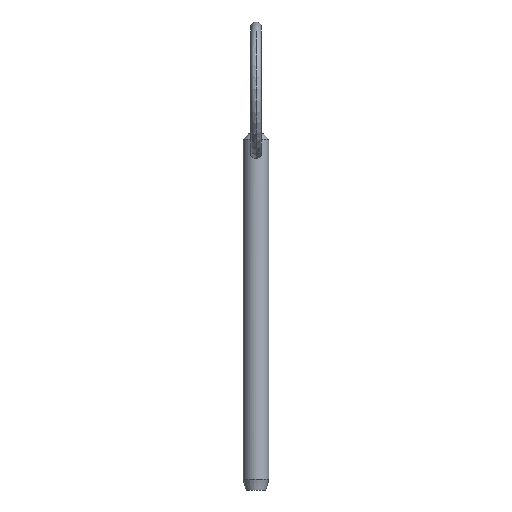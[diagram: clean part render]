
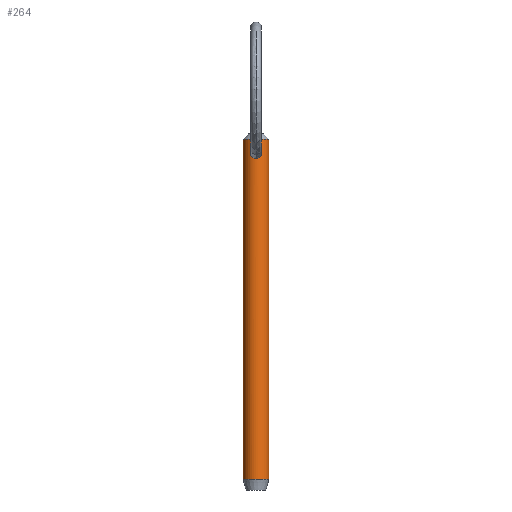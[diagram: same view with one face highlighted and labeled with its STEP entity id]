
A CAD part, front view. The second image highlights one B-rep face of the part: STEP entity #264.
In plain terms, the highlighted cylindrical face has radius 2.38 mm (diameter 4.76 mm), a partial arc.
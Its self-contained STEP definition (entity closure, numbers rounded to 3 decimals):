
#6 = EDGE_CURVE ( 'NONE', #222, #303, #202, .T. ) ;
#14 = AXIS2_PLACEMENT_3D ( 'NONE', #203, #26, #276 ) ;
#23 = CARTESIAN_POINT ( 'NONE',  ( -0.268, -2.368, 56.151 ) ) ;
#26 = DIRECTION ( 'NONE',  ( 0., 0., -1. ) ) ;
#37 = AXIS2_PLACEMENT_3D ( 'NONE', #327, #359, #399 ) ;
#45 = CARTESIAN_POINT ( 'NONE',  ( 0.615, -2.301, 57.944 ) ) ;
#56 = CARTESIAN_POINT ( 'NONE',  ( -0.613, -2.302, 57.946 ) ) ;
#66 = CARTESIAN_POINT ( 'NONE',  ( 2.38, 0., 55.9 ) ) ;
#73 = CARTESIAN_POINT ( 'NONE',  ( 0., -2.38, 58.168 ) ) ;
#76 = LINE ( 'NONE', #196, #261 ) ;
#82 = CARTESIAN_POINT ( 'NONE',  ( 0.133, -2.38, 56.125 ) ) ;
#86 = CARTESIAN_POINT ( 'NONE',  ( -0.991, -2.164, 57.401 ) ) ;
#88 = CARTESIAN_POINT ( 'NONE',  ( -0.514, -2.327, 56.249 ) ) ;
#94 = CARTESIAN_POINT ( 'NONE',  ( -2.38, 0., -3.08 ) ) ;
#101 = CARTESIAN_POINT ( 'NONE',  ( 0.268, -2.368, 58.137 ) ) ;
#103 = CARTESIAN_POINT ( 'NONE',  ( 0.625, -2.299, 56.321 ) ) ;
#110 = ORIENTED_EDGE ( 'NONE', *, *, #459, .T. ) ;
#118 = ORIENTED_EDGE ( 'NONE', *, *, #378, .F. ) ;
#126 = CARTESIAN_POINT ( 'NONE',  ( 0., -2.38, 56.125 ) ) ;
#131 = CARTESIAN_POINT ( 'NONE',  ( -2.38, 0., 59.64 ) ) ;
#136 = DIRECTION ( 'NONE',  ( -1., 0., 0. ) ) ;
#137 = CARTESIAN_POINT ( 'NONE',  ( 0., -2.38, 58.168 ) ) ;
#140 = CARTESIAN_POINT ( 'NONE',  ( 0., -2.38, 56.125 ) ) ;
#143 = CARTESIAN_POINT ( 'NONE',  ( 0.134, -2.38, 58.168 ) ) ;
#155 = EDGE_CURVE ( 'NONE', #451, #285, #167, .T. ) ;
#156 = CARTESIAN_POINT ( 'NONE',  ( -0.134, -2.38, 58.168 ) ) ;
#158 = FACE_BOUND ( 'NONE', #382, .T. ) ;
#166 = DIRECTION ( 'NONE',  ( 0., 0., -1. ) ) ;
#167 = CIRCLE ( 'NONE', #14, 2.38 ) ;
#171 = CARTESIAN_POINT ( 'NONE',  ( 0., 0., -3.08 ) ) ;
#174 = ORIENTED_EDGE ( 'NONE', *, *, #250, .T. ) ;
#175 = CARTESIAN_POINT ( 'NONE',  ( 0.981, -2.169, 56.864 ) ) ;
#184 = EDGE_LOOP ( 'NONE', ( #118, #218, #174, #206 ) ) ;
#187 = CARTESIAN_POINT ( 'NONE',  ( -0.133, -2.38, 56.125 ) ) ;
#196 = CARTESIAN_POINT ( 'NONE',  ( -2.38, 0., 55.9 ) ) ;
#202 = B_SPLINE_CURVE_WITH_KNOTS ( 'NONE', 3,
 ( #385, #187, #23, #88, #350, #460, #346, #230, #310, #86, #389, #56, #267, #426, #156, #388 ),
 .UNSPECIFIED., .F., .F.,
 ( 4, 2, 2, 2, 2, 2, 2, 4 ),
 ( 0.006, 0.006, 0.007, 0.007, 0.007, 0.008, 0.009, 0.009 ),
 .UNSPECIFIED. ) ;
#203 = CARTESIAN_POINT ( 'NONE',  ( 0., 0., 59.64 ) ) ;
#205 = CYLINDRICAL_SURFACE ( 'NONE', #37, 2.38 ) ;
#206 = ORIENTED_EDGE ( 'NONE', *, *, #297, .T. ) ;
#215 = AXIS2_PLACEMENT_3D ( 'NONE', #171, #363, #136 ) ;
#218 = ORIENTED_EDGE ( 'NONE', *, *, #155, .T. ) ;
#222 = VERTEX_POINT ( 'NONE', #126 ) ;
#223 = CIRCLE ( 'NONE', #215, 2.38 ) ;
#230 = CARTESIAN_POINT ( 'NONE',  ( -0.982, -2.169, 56.865 ) ) ;
#249 = CARTESIAN_POINT ( 'NONE',  ( 2.38, 0., -3.08 ) ) ;
#250 = EDGE_CURVE ( 'NONE', #285, #379, #76, .T. ) ;
#258 = CARTESIAN_POINT ( 'NONE',  ( 0.811, -2.24, 56.506 ) ) ;
#261 = VECTOR ( 'NONE', #470, 1000. ) ;
#264 = ADVANCED_FACE ( 'NONE', ( #360, #158 ), #205, .T. ) ;
#267 = CARTESIAN_POINT ( 'NONE',  ( -0.505, -2.329, 58.026 ) ) ;
#276 = DIRECTION ( 'NONE',  ( 1., 0., 0. ) ) ;
#285 = VERTEX_POINT ( 'NONE', #131 ) ;
#296 = CARTESIAN_POINT ( 'NONE',  ( 1.003, -2.158, 56.999 ) ) ;
#297 = EDGE_CURVE ( 'NONE', #379, #311, #223, .T. ) ;
#303 = VERTEX_POINT ( 'NONE', #73 ) ;
#310 = CARTESIAN_POINT ( 'NONE',  ( -1.004, -2.158, 56.999 ) ) ;
#311 = VERTEX_POINT ( 'NONE', #249 ) ;
#316 = ORIENTED_EDGE ( 'NONE', *, *, #6, .T. ) ;
#327 = CARTESIAN_POINT ( 'NONE',  ( 0., 0., 55.9 ) ) ;
#329 = B_SPLINE_CURVE_WITH_KNOTS ( 'NONE', 3,
 ( #137, #143, #101, #412, #45, #375, #366, #448, #369, #296, #175, #414, #258, #103, #419, #445, #82, #140 ),
 .UNSPECIFIED., .F., .F.,
 ( 4, 2, 2, 2, 2, 2, 2, 2, 4 ),
 ( 0.003, 0.003, 0.003, 0.004, 0.004, 0.005, 0.005, 0.005, 0.006 ),
 .UNSPECIFIED. ) ;
#332 = VECTOR ( 'NONE', #166, 1000. ) ;
#335 = CARTESIAN_POINT ( 'NONE',  ( 2.38, 0., 59.64 ) ) ;
#346 = CARTESIAN_POINT ( 'NONE',  ( -0.885, -2.21, 56.617 ) ) ;
#350 = CARTESIAN_POINT ( 'NONE',  ( -0.626, -2.298, 56.322 ) ) ;
#359 = DIRECTION ( 'NONE',  ( 0., 0., -1. ) ) ;
#360 = FACE_OUTER_BOUND ( 'NONE', #184, .T. ) ;
#363 = DIRECTION ( 'NONE',  ( 0., 0., 1. ) ) ;
#366 = CARTESIAN_POINT ( 'NONE',  ( 0.865, -2.218, 57.64 ) ) ;
#369 = CARTESIAN_POINT ( 'NONE',  ( 0.996, -2.162, 57.264 ) ) ;
#375 = CARTESIAN_POINT ( 'NONE',  ( 0.793, -2.246, 57.752 ) ) ;
#378 = EDGE_CURVE ( 'NONE', #451, #311, #436, .T. ) ;
#379 = VERTEX_POINT ( 'NONE', #94 ) ;
#382 = EDGE_LOOP ( 'NONE', ( #110, #316 ) ) ;
#385 = CARTESIAN_POINT ( 'NONE',  ( 0., -2.38, 56.125 ) ) ;
#388 = CARTESIAN_POINT ( 'NONE',  ( 0., -2.38, 58.168 ) ) ;
#389 = CARTESIAN_POINT ( 'NONE',  ( -0.88, -2.219, 57.66 ) ) ;
#399 = DIRECTION ( 'NONE',  ( -1., 0., 0. ) ) ;
#412 = CARTESIAN_POINT ( 'NONE',  ( 0.508, -2.328, 58.024 ) ) ;
#414 = CARTESIAN_POINT ( 'NONE',  ( 0.885, -2.21, 56.617 ) ) ;
#419 = CARTESIAN_POINT ( 'NONE',  ( 0.513, -2.327, 56.248 ) ) ;
#426 = CARTESIAN_POINT ( 'NONE',  ( -0.267, -2.368, 58.137 ) ) ;
#436 = LINE ( 'NONE', #66, #332 ) ;
#445 = CARTESIAN_POINT ( 'NONE',  ( 0.268, -2.368, 56.151 ) ) ;
#448 = CARTESIAN_POINT ( 'NONE',  ( 0.966, -2.176, 57.397 ) ) ;
#451 = VERTEX_POINT ( 'NONE', #335 ) ;
#459 = EDGE_CURVE ( 'NONE', #303, #222, #329, .T. ) ;
#460 = CARTESIAN_POINT ( 'NONE',  ( -0.811, -2.24, 56.506 ) ) ;
#470 = DIRECTION ( 'NONE',  ( 0., 0., -1. ) ) ;
